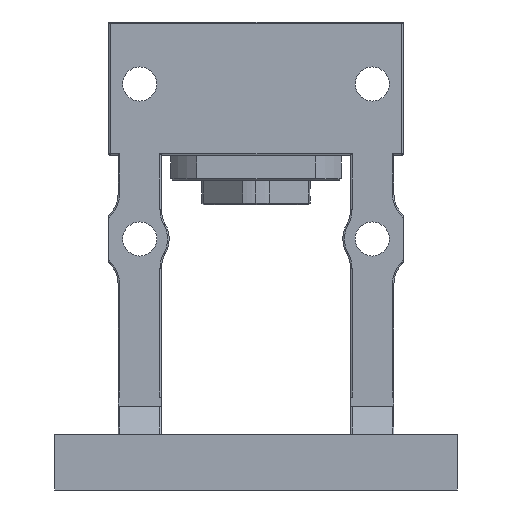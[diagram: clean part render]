
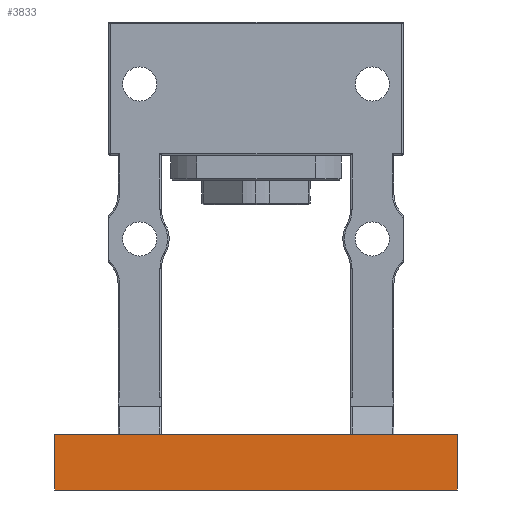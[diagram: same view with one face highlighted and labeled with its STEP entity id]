
A CAD part, front view. The second image highlights one B-rep face of the part: STEP entity #3833.
In plain terms, the highlighted planar face has unit normal (0, -1, 0).
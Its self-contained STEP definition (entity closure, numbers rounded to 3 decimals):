
#107 = DIRECTION ( 'NONE',  ( 0., 1., 0. ) ) ;
#317 = EDGE_CURVE ( 'NONE', #12459, #2573, #1885, .T. ) ;
#336 = CARTESIAN_POINT ( 'NONE',  ( 65., -63., -142. ) ) ;
#365 = CARTESIAN_POINT ( 'NONE',  ( 64.5, -63., -124. ) ) ;
#810 = CARTESIAN_POINT ( 'NONE',  ( 65., -63., -124.5 ) ) ;
#1185 = VECTOR ( 'NONE', #7134, 1000. ) ;
#1283 = EDGE_LOOP ( 'NONE', ( #5237, #8300, #4587, #4031, #9181, #12498 ) ) ;
#1885 = CIRCLE ( 'NONE', #6672, 0.5 ) ;
#2054 = EDGE_CURVE ( 'NONE', #2768, #7261, #2597, .T. ) ;
#2238 = AXIS2_PLACEMENT_3D ( 'NONE', #6072, #107, #7058 ) ;
#2573 = VERTEX_POINT ( 'NONE', #365 ) ;
#2597 = LINE ( 'NONE', #336, #7587 ) ;
#2768 = VERTEX_POINT ( 'NONE', #11580 ) ;
#3833 = ADVANCED_FACE ( 'NONE', ( #4038 ), #10992, .F. ) ;
#3848 = LINE ( 'NONE', #8085, #1185 ) ;
#4031 = ORIENTED_EDGE ( 'NONE', *, *, #317, .T. ) ;
#4038 = FACE_OUTER_BOUND ( 'NONE', #1283, .T. ) ;
#4113 = DIRECTION ( 'NONE',  ( 0., -1., 0. ) ) ;
#4356 = DIRECTION ( 'NONE',  ( 0., 0., 1. ) ) ;
#4473 = CARTESIAN_POINT ( 'NONE',  ( -65., -63., -142. ) ) ;
#4587 = ORIENTED_EDGE ( 'NONE', *, *, #6482, .T. ) ;
#4641 = VECTOR ( 'NONE', #6725, 1000. ) ;
#4787 = CARTESIAN_POINT ( 'NONE',  ( -65., -63., -124. ) ) ;
#4846 = CARTESIAN_POINT ( 'NONE',  ( -64.5, -63., -124. ) ) ;
#5237 = ORIENTED_EDGE ( 'NONE', *, *, #6609, .F. ) ;
#5947 = VERTEX_POINT ( 'NONE', #6683 ) ;
#6072 = CARTESIAN_POINT ( 'NONE',  ( -65., -63., -144. ) ) ;
#6482 = EDGE_CURVE ( 'NONE', #2768, #12459, #3848, .T. ) ;
#6609 = EDGE_CURVE ( 'NONE', #7261, #5947, #10174, .T. ) ;
#6672 = AXIS2_PLACEMENT_3D ( 'NONE', #8525, #8393, #8425 ) ;
#6683 = CARTESIAN_POINT ( 'NONE',  ( -65., -63., -124.5 ) ) ;
#6725 = DIRECTION ( 'NONE',  ( -1., 0., 0. ) ) ;
#6999 = EDGE_CURVE ( 'NONE', #7649, #5947, #7416, .T. ) ;
#7058 = DIRECTION ( 'NONE',  ( 0., 0., 1. ) ) ;
#7134 = DIRECTION ( 'NONE',  ( 0., 0., 1. ) ) ;
#7261 = VERTEX_POINT ( 'NONE', #4473 ) ;
#7416 = CIRCLE ( 'NONE', #9177, 0.5 ) ;
#7587 = VECTOR ( 'NONE', #12158, 1000. ) ;
#7649 = VERTEX_POINT ( 'NONE', #4846 ) ;
#8085 = CARTESIAN_POINT ( 'NONE',  ( 65., -63., -144. ) ) ;
#8300 = ORIENTED_EDGE ( 'NONE', *, *, #2054, .F. ) ;
#8393 = DIRECTION ( 'NONE',  ( 0., -1., 0. ) ) ;
#8425 = DIRECTION ( 'NONE',  ( 0., 0., 1. ) ) ;
#8525 = CARTESIAN_POINT ( 'NONE',  ( 64.5, -63., -124.5 ) ) ;
#9177 = AXIS2_PLACEMENT_3D ( 'NONE', #10045, #4113, #11036 ) ;
#9181 = ORIENTED_EDGE ( 'NONE', *, *, #10181, .T. ) ;
#10045 = CARTESIAN_POINT ( 'NONE',  ( -64.5, -63., -124.5 ) ) ;
#10174 = LINE ( 'NONE', #10266, #12841 ) ;
#10181 = EDGE_CURVE ( 'NONE', #2573, #7649, #12545, .T. ) ;
#10266 = CARTESIAN_POINT ( 'NONE',  ( -65., -63., -144. ) ) ;
#10992 = PLANE ( 'NONE',  #2238 ) ;
#11036 = DIRECTION ( 'NONE',  ( 0., 0., 1. ) ) ;
#11580 = CARTESIAN_POINT ( 'NONE',  ( 65., -63., -142. ) ) ;
#12158 = DIRECTION ( 'NONE',  ( -1., 0., 0. ) ) ;
#12459 = VERTEX_POINT ( 'NONE', #810 ) ;
#12498 = ORIENTED_EDGE ( 'NONE', *, *, #6999, .T. ) ;
#12545 = LINE ( 'NONE', #4787, #4641 ) ;
#12841 = VECTOR ( 'NONE', #4356, 1000. ) ;
